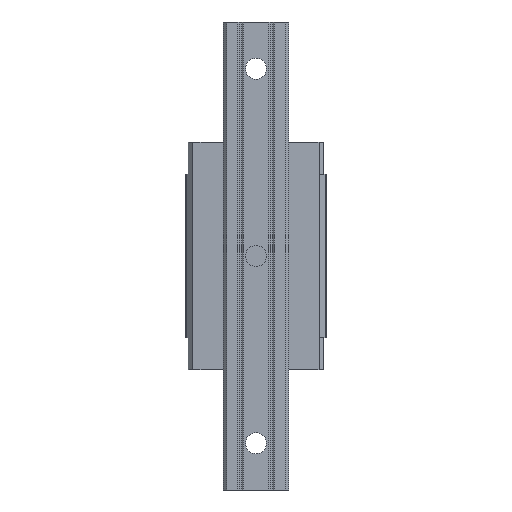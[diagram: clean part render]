
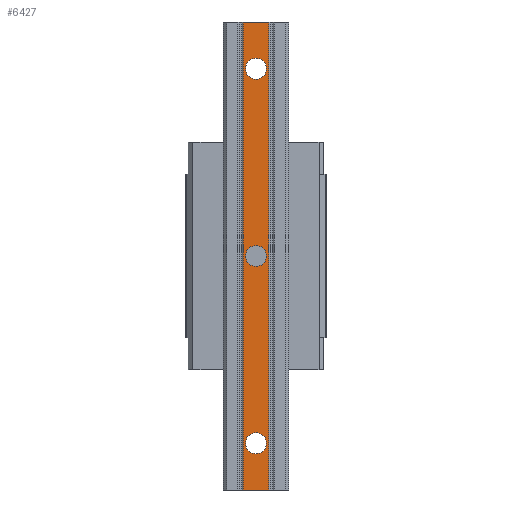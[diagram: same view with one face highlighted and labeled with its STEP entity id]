
A CAD part, front view. The second image highlights one B-rep face of the part: STEP entity #6427.
In plain terms, the highlighted planar face has unit normal (0, -1, 0).
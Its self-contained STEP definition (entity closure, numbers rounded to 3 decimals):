
#5081=DIRECTION('',(1.,0.,0.));
#5082=VECTOR('',#5081,11.1);
#5083=CARTESIAN_POINT('',(-5.55,-26.,-100.));
#5084=LINE('',#5083,#5082);
#5265=DIRECTION('',(0.,0.,1.));
#5266=VECTOR('',#5265,200.);
#5267=CARTESIAN_POINT('',(5.55,-26.,-100.));
#5268=LINE('',#5267,#5266);
#5269=DIRECTION('',(0.,0.,1.));
#5270=VECTOR('',#5269,200.);
#5271=CARTESIAN_POINT('',(-5.55,-26.,-100.));
#5272=LINE('',#5271,#5270);
#5273=DIRECTION('',(1.,0.,0.));
#5274=VECTOR('',#5273,11.1);
#5275=CARTESIAN_POINT('',(-5.55,-26.,100.));
#5276=LINE('',#5275,#5274);
#5277=CARTESIAN_POINT('',(0.,-26.,0.));
#5278=DIRECTION('',(0.,-1.,0.));
#5279=DIRECTION('',(1.,0.,0.));
#5280=AXIS2_PLACEMENT_3D('',#5277,#5278,#5279);
#5282=CARTESIAN_POINT('',(0.,-26.,0.));
#5283=DIRECTION('',(0.,-1.,0.));
#5284=DIRECTION('',(-1.,0.,0.));
#5285=AXIS2_PLACEMENT_3D('',#5282,#5283,#5284);
#5287=CARTESIAN_POINT('',(0.,-26.,80.));
#5288=DIRECTION('',(0.,-1.,0.));
#5289=DIRECTION('',(1.,0.,0.));
#5290=AXIS2_PLACEMENT_3D('',#5287,#5288,#5289);
#5292=CARTESIAN_POINT('',(0.,-26.,80.));
#5293=DIRECTION('',(0.,-1.,0.));
#5294=DIRECTION('',(-1.,0.,0.));
#5295=AXIS2_PLACEMENT_3D('',#5292,#5293,#5294);
#5297=CARTESIAN_POINT('',(0.,-26.,-80.));
#5298=DIRECTION('',(0.,-1.,0.));
#5299=DIRECTION('',(1.,0.,0.));
#5300=AXIS2_PLACEMENT_3D('',#5297,#5298,#5299);
#5302=CARTESIAN_POINT('',(0.,-26.,-80.));
#5303=DIRECTION('',(0.,-1.,0.));
#5304=DIRECTION('',(-1.,0.,0.));
#5305=AXIS2_PLACEMENT_3D('',#5302,#5303,#5304);
#5819=CARTESIAN_POINT('',(-5.55,-26.,-100.));
#5820=VERTEX_POINT('',#5819);
#5821=CARTESIAN_POINT('',(5.55,-26.,-100.));
#5822=VERTEX_POINT('',#5821);
#5899=CARTESIAN_POINT('',(5.55,-26.,100.));
#5900=VERTEX_POINT('',#5899);
#5901=CARTESIAN_POINT('',(-5.55,-26.,100.));
#5902=VERTEX_POINT('',#5901);
#5903=CARTESIAN_POINT('',(4.5,-26.,0.));
#5904=CARTESIAN_POINT('',(-4.5,-26.,0.));
#5905=VERTEX_POINT('',#5903);
#5906=VERTEX_POINT('',#5904);
#5907=CARTESIAN_POINT('',(4.5,-26.,80.));
#5908=CARTESIAN_POINT('',(-4.5,-26.,80.));
#5909=VERTEX_POINT('',#5907);
#5910=VERTEX_POINT('',#5908);
#5911=CARTESIAN_POINT('',(4.5,-26.,-80.));
#5912=CARTESIAN_POINT('',(-4.5,-26.,-80.));
#5913=VERTEX_POINT('',#5911);
#5914=VERTEX_POINT('',#5912);
#6396=CARTESIAN_POINT('',(-5.55,-26.,-100.));
#6397=DIRECTION('',(0.,-1.,0.));
#6398=DIRECTION('',(1.,0.,0.));
#6399=AXIS2_PLACEMENT_3D('',#6396,#6397,#6398);
#6400=PLANE('',#6399);
#6401=ORIENTED_EDGE('',*,*,#6072,.F.);
#6403=ORIENTED_EDGE('',*,*,#6402,.T.);
#6405=ORIENTED_EDGE('',*,*,#6404,.T.);
#6406=ORIENTED_EDGE('',*,*,#6388,.F.);
#6407=EDGE_LOOP('',(#6401,#6403,#6405,#6406));
#6408=FACE_OUTER_BOUND('',#6407,.F.);
#6410=ORIENTED_EDGE('',*,*,#6409,.T.);
#6412=ORIENTED_EDGE('',*,*,#6411,.T.);
#6413=EDGE_LOOP('',(#6410,#6412));
#6414=FACE_BOUND('',#6413,.F.);
#6416=ORIENTED_EDGE('',*,*,#6415,.T.);
#6418=ORIENTED_EDGE('',*,*,#6417,.T.);
#6419=EDGE_LOOP('',(#6416,#6418));
#6420=FACE_BOUND('',#6419,.F.);
#6422=ORIENTED_EDGE('',*,*,#6421,.T.);
#6424=ORIENTED_EDGE('',*,*,#6423,.T.);
#6425=EDGE_LOOP('',(#6422,#6424));
#6426=FACE_BOUND('',#6425,.F.);
#6427=ADVANCED_FACE('',(#6408,#6414,#6420,#6426),#6400,.T.);
#5281=CIRCLE('',#5280,4.5);
#5286=CIRCLE('',#5285,4.5);
#5291=CIRCLE('',#5290,4.5);
#5296=CIRCLE('',#5295,4.5);
#5301=CIRCLE('',#5300,4.5);
#5306=CIRCLE('',#5305,4.5);
#6072=EDGE_CURVE('',#5820,#5822,#5084,.T.);
#6388=EDGE_CURVE('',#5822,#5900,#5268,.T.);
#6402=EDGE_CURVE('',#5820,#5902,#5272,.T.);
#6404=EDGE_CURVE('',#5902,#5900,#5276,.T.);
#6409=EDGE_CURVE('',#5905,#5906,#5281,.T.);
#6411=EDGE_CURVE('',#5906,#5905,#5286,.T.);
#6415=EDGE_CURVE('',#5909,#5910,#5291,.T.);
#6417=EDGE_CURVE('',#5910,#5909,#5296,.T.);
#6421=EDGE_CURVE('',#5913,#5914,#5301,.T.);
#6423=EDGE_CURVE('',#5914,#5913,#5306,.T.);
